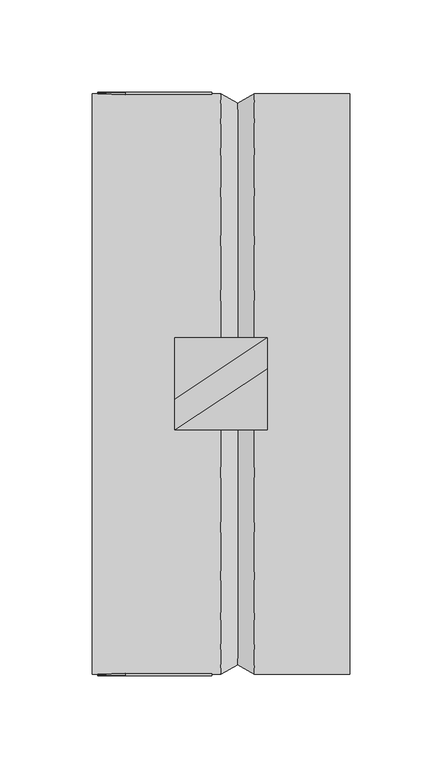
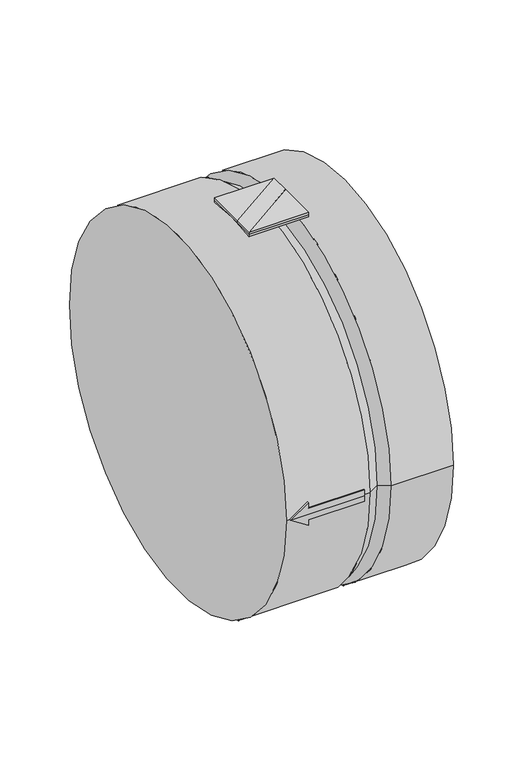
"""IFC4 building model written with IfcOpenShell, lengths in millimetres: damper geometry, KORF_Клапан_Обратный_Круглый_KOK : КОK 315."""

from ifc_helpers import new_model, si_unit, frame, origin, place, context, project, spatial, polyline, circle_curve, ellipse_curve, outline, extrude, source, transform, mapped, element, save
from ifc_brep_helpers import plane_surface, cylinder_surface, revolved_surface, advanced_brep


def damper_0945496c(model_context):
    return source(origin(), model_context, "Body", "SolidModel", [
        extrude(outline(polyline([(95.0, 25.0), (95.0, 8.3333333), (45.0, -25.0), (45.0, -8.3333333), (95.0, 25.0)])), frame((0.0, 0.0, 157.5), z_axis=(0.0, 0.0, 1.0), x_axis=(1.0, 0.0, 0.0)), (0.0, 0.0, 1.0), 2.0),
        extrude(outline(polyline([(95.0, 25.0), (45.0, -8.3333333), (45.0, 25.0), (95.0, 25.0)])), frame((0.0, 0.0, 157.5), z_axis=(0.0, 0.0, 1.0), x_axis=(1.0, 0.0, 0.0)), (0.0, 0.0, 1.0), 2.0),
        extrude(outline(polyline([(45.0, -25.0), (95.0, 8.3333333), (95.0, -25.0), (45.0, -25.0)])), frame((0.0, 0.0, 157.5), z_axis=(0.0, 0.0, 1.0), x_axis=(1.0, 0.0, 0.0)), (0.0, 0.0, 1.0), 2.0),
        advanced_brep(
        [(18.0, -157.1822191, 10.0), (3.0, -157.5, 0.0), (3.0, -158.5, 0.0), (18.0, -158.184228, 10.0), (18.0, -157.1822191, -10.0), (18.0, -158.184228, -10.0), (18.0, -157.4206149, -5.0), (18.0, -158.421116, -5.0), (65.0, -157.4206149, -5.0), (65.0, -158.421116, -5.0), (65.0, -157.5, 0.0), (65.0, -157.4206149, 5.0), (65.0, -158.421116, 5.0), (65.0, -158.5, 0.0), (18.0, -157.4206149, 5.0), (18.0, -158.421116, 5.0)],
        [
            (0, 1, ellipse_curve(frame((3.0, 0.0, 0.0), z_axis=(0.5547001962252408, 0.0, -0.832050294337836), x_axis=(0.8320502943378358, 0.0, 0.5547001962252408)), 283.9371629, 157.5)),
            (1, 2),
            (2, 3, ellipse_curve(frame((3.0, 0.0, 0.0), z_axis=(-0.5547001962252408, 0.0, 0.832050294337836), x_axis=(-0.8320502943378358, 0.0, -0.5547001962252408)), 285.7399386, 158.5)),
            (3, 0),
            (1, 4, ellipse_curve(frame((3.0, 0.0, 0.0), z_axis=(0.5547001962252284, 0.0, 0.8320502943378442), x_axis=(0.8320502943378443, 0.0, -0.5547001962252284)), 283.9371629, 157.5)),
            (4, 5),
            (5, 2, ellipse_curve(frame((3.0, 0.0, 0.0), z_axis=(-0.5547001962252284, 0.0, -0.8320502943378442), x_axis=(-0.8320502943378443, 0.0, 0.5547001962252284)), 285.7399386, 158.5)),
            (4, 6, circle_curve(frame((18.0, 0.0, 0.0), z_axis=(-1.0, 0.0, 0.0), x_axis=(0.0, 1.0, 0.0)), 157.5)),
            (6, 7),
            (7, 5, circle_curve(frame((18.0, 0.0, 0.0), z_axis=(1.0, 0.0, 0.0), x_axis=(0.0, 1.0, 0.0)), 158.5)),
            (6, 8),
            (8, 9),
            (9, 7),
            (8, 10, circle_curve(frame((65.0, 0.0, 0.0), z_axis=(-1.0, 0.0, 0.0), x_axis=(0.0, 1.0, 0.0)), 157.5)),
            (10, 11, circle_curve(frame((65.0, 0.0, 0.0), z_axis=(-1.0, 0.0, 0.0), x_axis=(0.0, 1.0, 0.0)), 157.5)),
            (11, 12),
            (12, 13, circle_curve(frame((65.0, 0.0, 0.0), z_axis=(1.0, 0.0, 0.0), x_axis=(0.0, 1.0, 0.0)), 158.5)),
            (13, 9, circle_curve(frame((65.0, 0.0, 0.0), z_axis=(1.0, 0.0, 0.0), x_axis=(0.0, 1.0, 0.0)), 158.5)),
            (11, 14),
            (14, 15),
            (15, 12),
            (14, 0, circle_curve(frame((18.0, 0.0, 0.0), z_axis=(-1.0, 0.0, 0.0), x_axis=(0.0, 1.0, 0.0)), 157.5)),
            (3, 15, circle_curve(frame((18.0, 0.0, 0.0), z_axis=(1.0, 0.0, 0.0), x_axis=(0.0, 1.0, 0.0)), 158.5)),
            (1, 10),
            (2, 13),
        ],
        [
            plane_surface(frame((18.0, -159.5, 10.0), z_axis=(-0.5547001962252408, 0.0, 0.832050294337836), x_axis=(0.0, 1.0, 0.0))),
            plane_surface(frame((3.0, -159.5, 0.0), z_axis=(-0.5547001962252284, 0.0, -0.8320502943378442), x_axis=(0.0, 1.0, 0.0))),
            plane_surface(frame((18.0, -159.5, -10.0), z_axis=(1.0, 0.0, 0.0), x_axis=(0.0, 1.0, 0.0))),
            plane_surface(frame((18.0, -159.5, -5.0), z_axis=(0.0, 0.0, -1.0), x_axis=(0.0, 1.0, 0.0))),
            plane_surface(frame((65.0, -159.5, -5.0), z_axis=(1.0, 0.0, 0.0), x_axis=(0.0, 1.0, 0.0))),
            plane_surface(frame((65.0, -159.5, 5.0), z_axis=(0.0, 0.0, 1.0), x_axis=(0.0, 1.0, 0.0))),
            plane_surface(frame((18.0, -159.5, 5.0), z_axis=(1.0, 0.0, 0.0), x_axis=(0.0, 1.0, 0.0))),
            revolved_surface(polyline([(239.2499999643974, 157.5, 0.0), (-233.2499999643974, 157.5, 0.0)]), (0.0, 0.0, 0.0), (1.0, 0.0, 0.0)),
            revolved_surface(polyline([(239.24999996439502, 157.5, 0.0), (-233.24999996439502, 157.5, 0.0)]), (0.0, 0.0, 0.0), (1.0, 0.0, 0.0)),
            cylinder_surface(frame((0.0, 0.0, 0.0), z_axis=(-1.0, 0.0, 0.0), x_axis=(0.0, 1.0, 0.0)), 158.5),
        ],
        [
            (0, [[1, 2, 3, 4]]),
            (1, [[5, 6, 7, -2]]),
            (2, [[8, 9, 10, -6]]),
            (3, [[11, 12, 13, -9]]),
            (4, [[14, 15, 16, 17, 18, -12]]),
            (5, [[19, 20, 21, -16]]),
            (6, [[22, -4, 23, -20]]),
            (7, [[24, -14, -11, -8, -5]]),
            (8, [[-24, -1, -22, -19, -15]]),
            (9, [[25, -17, -21, -23, -3]]),
            (9, [[-25, -7, -10, -13, -18]]),
        ],
    ),
        advanced_brep(
        [(3.0, 157.5, 0.0), (18.0, 157.1822191, 10.0), (18.0, 158.184228, 10.0), (3.0, 158.5, 0.0), (18.0, 157.1822191, -10.0), (18.0, 158.184228, -10.0), (18.0, 157.4206149, -5.0), (18.0, 158.421116, -5.0), (65.0, 157.4206149, -5.0), (65.0, 158.421116, -5.0), (65.0, 157.5, 0.0), (65.0, 158.5, 0.0), (65.0, 158.421116, 5.0), (65.0, 157.4206149, 5.0), (18.0, 157.4206149, 5.0), (18.0, 158.421116, 5.0)],
        [
            (0, 1, ellipse_curve(frame((3.0, 0.0, 0.0), z_axis=(0.5547001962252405, 0.0, -0.8320502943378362), x_axis=(0.8320502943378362, 0.0, 0.5547001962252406)), 283.9371629, 157.5)),
            (1, 2),
            (2, 3, ellipse_curve(frame((3.0, 0.0, 0.0), z_axis=(-0.5547001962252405, 0.0, 0.8320502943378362), x_axis=(-0.8320502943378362, 0.0, -0.5547001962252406)), 285.7399386, 158.5)),
            (3, 0),
            (4, 0, ellipse_curve(frame((3.0, 0.0, 0.0), z_axis=(0.554700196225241, 0.0, 0.8320502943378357), x_axis=(0.8320502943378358, 0.0, -0.554700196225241)), 283.9371629, 157.5)),
            (3, 5, ellipse_curve(frame((3.0, 0.0, 0.0), z_axis=(-0.554700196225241, 0.0, -0.8320502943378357), x_axis=(-0.8320502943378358, 0.0, 0.554700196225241)), 285.7399386, 158.5)),
            (5, 4),
            (6, 4, circle_curve(frame((18.0, 0.0, 0.0), z_axis=(-1.0, 0.0, 0.0), x_axis=(0.0, 1.0, 0.0)), 157.5)),
            (5, 7, circle_curve(frame((18.0, 0.0, 0.0), z_axis=(1.0, 0.0, 0.0), x_axis=(0.0, 1.0, 0.0)), 158.5)),
            (7, 6),
            (8, 6),
            (7, 9),
            (9, 8),
            (10, 8, circle_curve(frame((65.0, 0.0, 0.0), z_axis=(-1.0, 0.0, 0.0), x_axis=(0.0, 1.0, 0.0)), 157.5)),
            (9, 11, circle_curve(frame((65.0, 0.0, 0.0), z_axis=(1.0, 0.0, 0.0), x_axis=(0.0, 1.0, 0.0)), 158.5)),
            (11, 12, circle_curve(frame((65.0, 0.0, 0.0), z_axis=(1.0, 0.0, 0.0), x_axis=(0.0, 1.0, 0.0)), 158.5)),
            (12, 13),
            (13, 10, circle_curve(frame((65.0, 0.0, 0.0), z_axis=(-1.0, 0.0, 0.0), x_axis=(0.0, 1.0, 0.0)), 157.5)),
            (14, 13),
            (12, 15),
            (15, 14),
            (1, 14, circle_curve(frame((18.0, 0.0, 0.0), z_axis=(-1.0, 0.0, 0.0), x_axis=(0.0, 1.0, 0.0)), 157.5)),
            (15, 2, circle_curve(frame((18.0, 0.0, 0.0), z_axis=(1.0, 0.0, 0.0), x_axis=(0.0, 1.0, 0.0)), 158.5)),
            (10, 0),
            (11, 3),
        ],
        [
            plane_surface(frame((18.0, 155.5, 10.0), z_axis=(-0.5547001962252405, 0.0, 0.8320502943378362), x_axis=(0.0, 1.0, 0.0))),
            plane_surface(frame((3.0, 155.5, 0.0), z_axis=(-0.554700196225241, 0.0, -0.8320502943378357), x_axis=(0.0, 1.0, 0.0))),
            plane_surface(frame((18.0, 155.5, -10.0), z_axis=(1.0, 0.0, 0.0), x_axis=(0.0, 1.0, 0.0))),
            plane_surface(frame((18.0, 155.5, -5.0), z_axis=(0.0, 0.0, -1.0), x_axis=(0.0, 1.0, 0.0))),
            plane_surface(frame((65.0, 155.5, -5.0), z_axis=(1.0, 0.0, 0.0), x_axis=(0.0, 1.0, 0.0))),
            plane_surface(frame((65.0, 155.5, 5.0), z_axis=(0.0, 0.0, 1.0), x_axis=(0.0, 1.0, 0.0))),
            plane_surface(frame((18.0, 155.5, 5.0), z_axis=(1.0, 0.0, 0.0), x_axis=(0.0, 1.0, 0.0))),
            revolved_surface(polyline([(239.24999996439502, 157.5, 0.0), (-233.24999996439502, 157.5, 0.0)]), (0.0, 0.0, 0.0), (1.0, 0.0, 0.0)),
            revolved_surface(polyline([(239.24999996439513, 157.5, 0.0), (-233.24999996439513, 157.5, 0.0)]), (0.0, 0.0, 0.0), (1.0, 0.0, 0.0)),
            cylinder_surface(frame((0.0, 0.0, 0.0), z_axis=(-1.0, 0.0, 0.0), x_axis=(0.0, 1.0, 0.0)), 158.5),
        ],
        [
            (0, [[1, 2, 3, 4]]),
            (1, [[5, -4, 6, 7]]),
            (2, [[8, -7, 9, 10]]),
            (3, [[11, -10, 12, 13]]),
            (4, [[14, -13, 15, 16, 17, 18]]),
            (5, [[19, -17, 20, 21]]),
            (6, [[22, -21, 23, -2]]),
            (7, [[24, -5, -8, -11, -14]]),
            (8, [[-24, -18, -19, -22, -1]]),
            (9, [[25, -3, -23, -20, -16]]),
            (9, [[-25, -15, -12, -9, -6]]),
        ],
    ),
        advanced_brep(
        [(140.0, -157.5, 0.0), (140.0, 157.5, 0.0), (0.0, -157.5, 0.0), (0.0, 157.5, 0.0), (88.0, -157.5, 0.0), (88.0, 157.5, 0.0), (70.0, 157.5, 0.0), (70.0, -157.5, 0.0), (79.0, 152.5, 0.0), (79.0, -152.5, 0.0)],
        [
            (0, 1, circle_curve(frame((140.0, 0.0, 0.0), z_axis=(1.0, 0.0, 0.0), x_axis=(0.0, 1.0, 0.0)), 157.5)),
            (1, 0, circle_curve(frame((140.0, 0.0, 0.0), z_axis=(1.0, 0.0, 0.0), x_axis=(0.0, 1.0, 0.0)), 157.5)),
            (2, 3, circle_curve(frame((0.0, 0.0, 0.0), z_axis=(-1.0, 0.0, 0.0), x_axis=(0.0, 1.0, 0.0)), 157.5)),
            (3, 2, circle_curve(frame((0.0, 0.0, 0.0), z_axis=(-1.0, 0.0, 0.0), x_axis=(0.0, 1.0, 0.0)), 157.5)),
            (0, 4),
            (4, 5, circle_curve(frame((88.0, 0.0, 0.0), z_axis=(1.0, 0.0, 0.0), x_axis=(0.0, 1.0, 0.0)), 157.5)),
            (5, 1),
            (3, 6),
            (6, 7, circle_curve(frame((70.0, 0.0, 0.0), z_axis=(-1.0, 0.0, 0.0), x_axis=(0.0, 1.0, 0.0)), 157.5)),
            (7, 2),
            (5, 4, circle_curve(frame((88.0, 0.0, 0.0), z_axis=(1.0, 0.0, 0.0), x_axis=(0.0, 1.0, 0.0)), 157.5)),
            (7, 6, circle_curve(frame((70.0, 0.0, 0.0), z_axis=(-1.0, 0.0, 0.0), x_axis=(0.0, 1.0, 0.0)), 157.5)),
            (6, 8),
            (8, 9, circle_curve(frame((79.0, 0.0, 0.0), z_axis=(-1.0, 0.0, 0.0), x_axis=(0.0, -1.0, 0.0)), 152.5)),
            (9, 7),
            (8, 5),
            (4, 9),
            (9, 8, circle_curve(frame((79.0, 0.0, 0.0), z_axis=(-1.0, 0.0, 0.0), x_axis=(0.0, 1.0, 0.0)), 152.5)),
        ],
        [
            plane_surface(frame((140.0, 157.5, 0.0), z_axis=(1.0, 0.0, 0.0), x_axis=(0.0, 0.0, 1.0))),
            plane_surface(frame((0.0, 157.5, 0.0), z_axis=(-1.0, 0.0, 0.0), x_axis=(0.0, 0.0, -1.0))),
            cylinder_surface(frame((0.0, 0.0, 0.0), z_axis=(1.0, 0.0, 0.0), x_axis=(0.0, 1.0, 0.0)), 157.5),
            revolved_surface(polyline([(70.0, -157.5, 0.0), (79.0, -152.5, 0.0)]), (0.0, 0.0, 0.0), (1.0, 0.0, 0.0)),
            revolved_surface(polyline([(79.0, -152.5, 0.0), (88.0, -157.5, 0.0)]), (0.0, 0.0, 0.0), (1.0, 0.0, 0.0)),
            revolved_surface(polyline([(70.0, 157.5, 0.0), (79.0, 152.5, 0.0)]), (0.0, 0.0, 0.0), (1.0, 0.0, 0.0)),
            revolved_surface(polyline([(79.0, 152.5, 0.0), (88.0, 157.5, 0.0)]), (0.0, 0.0, 0.0), (1.0, 0.0, 0.0)),
        ],
        [
            (0, [[1, 2]]),
            (1, [[3, 4]]),
            (2, [[-1, 5, 6, 7]]),
            (2, [[-4, 8, 9, 10]]),
            (2, [[-2, -7, 11, -5]]),
            (2, [[-3, -10, 12, -8]]),
            (3, [[13, 14, 15, -9]]),
            (4, [[-14, 16, -6, 17]]),
            (5, [[-13, -12, -15, 18]]),
            (6, [[-16, -18, -17, -11]]),
        ],
    ),
        advanced_brep(
        [(45.0, 25.0, 155.5032154), (95.0, 25.0, 155.5032154), (95.0, 0.0, 157.5), (95.0, -25.0, 155.5032154), (45.0, -25.0, 155.5032154), (45.0, 0.0, 157.5), (95.0, 25.0, 157.5), (45.0, 25.0, 157.5), (45.0, -25.0, 157.5), (95.0, -25.0, 157.5)],
        [
            (0, 1),
            (1, 2, circle_curve(frame((95.0, 0.0, 0.0), z_axis=(1.0, 0.0, 0.0), x_axis=(0.0, 1.0, 0.0)), 157.5)),
            (2, 3, circle_curve(frame((95.0, 0.0, 0.0), z_axis=(1.0, 0.0, 0.0), x_axis=(0.0, 1.0, 0.0)), 157.5)),
            (3, 4),
            (4, 5, circle_curve(frame((45.0, 0.0, 0.0), z_axis=(-1.0, 0.0, 0.0), x_axis=(0.0, 1.0, 0.0)), 157.5)),
            (5, 0, circle_curve(frame((45.0, 0.0, 0.0), z_axis=(-1.0, 0.0, 0.0), x_axis=(0.0, 1.0, 0.0)), 157.5)),
            (6, 7),
            (7, 5),
            (5, 8),
            (8, 9),
            (9, 2),
            (2, 6),
            (6, 1),
            (0, 7),
            (4, 8),
            (3, 9),
        ],
        [
            revolved_surface(polyline([(95.0, 157.5, 0.0), (45.0, 157.5, 0.0)]), (0.0, 0.0, 0.0), (1.0, 0.0, 0.0)),
            plane_surface(frame((45.0, 25.0, 157.5), z_axis=(0.0, 0.0, 1.0), x_axis=(-1.0, 0.0, 0.0))),
            plane_surface(frame((95.0, 25.0, 157.5), z_axis=(0.0, 1.0, 0.0), x_axis=(0.0, 0.0, -1.0))),
            plane_surface(frame((45.0, 25.0, 157.5), z_axis=(-1.0, 0.0, 0.0), x_axis=(0.0, 0.0, -1.0))),
            plane_surface(frame((45.0, -25.0, 157.5), z_axis=(0.0, -1.0, 0.0), x_axis=(0.0, 0.0, -1.0))),
            plane_surface(frame((95.0, -25.0, 157.5), z_axis=(1.0, 0.0, 0.0), x_axis=(0.0, 0.0, -1.0))),
        ],
        [
            (0, [[1, 2, 3, 4, 5, 6]]),
            (1, [[7, 8, 9, 10, 11, 12]]),
            (2, [[-7, 13, -1, 14]]),
            (3, [[-8, -14, -6]]),
            (3, [[-9, -5, 15]]),
            (4, [[-10, -15, -4, 16]]),
            (5, [[-11, -16, -3]]),
            (5, [[-12, -2, -13]]),
        ],
    ),
    ])


if __name__ == "__main__":
    model = new_model("IFC4")
    model_context = context("Model", 3, world=origin())
    ifc_project = project(units=[si_unit("LENGTHUNIT", "METRE", prefix="MILLI")], contexts=[model_context])
    site = spatial("IfcSite", under=ifc_project)
    building = spatial("IfcBuilding", under=site)
    placement = place(None, origin())
    damper_shape = damper_0945496c(model_context)
    element("IfcDamper", 1, ObjectType="KORF_Клапан_Обратный_Круглый_KOK : КОK 315", at=placement, inside=building, context=model_context, shape_type="MappedRepresentation", body=[
        mapped(damper_shape, transform((0.0, 0.0, 0.0), x_axis=(1.0, 0.0, 0.0), y_axis=(0.0, 1.0, 0.0), z_axis=(0.0, 0.0, 1.0))),
    ])
    save(model, "model.ifc")
